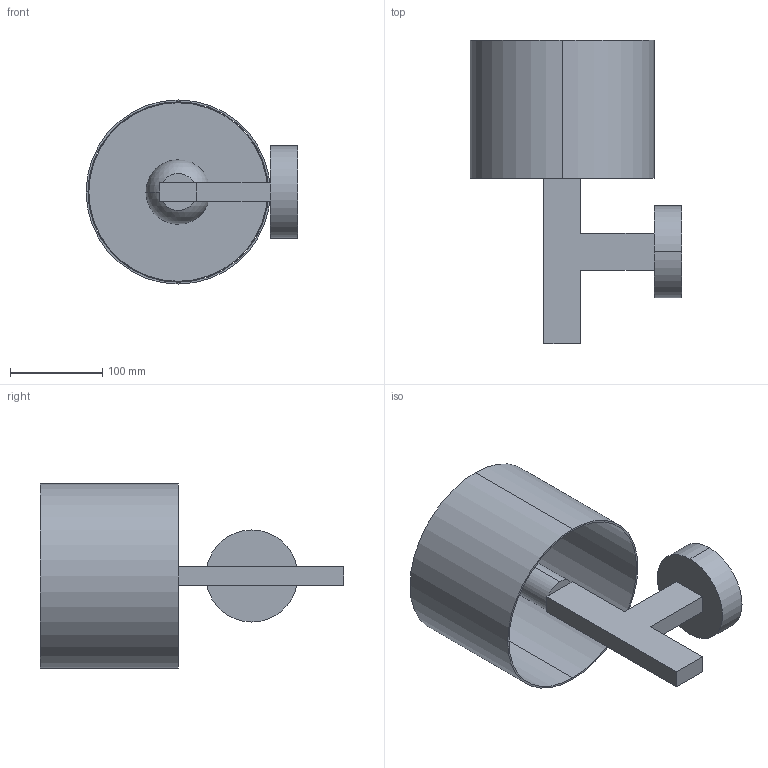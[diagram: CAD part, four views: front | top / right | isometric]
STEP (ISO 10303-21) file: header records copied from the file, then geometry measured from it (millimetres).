
FILE_DESCRIPTION (( 'STEP AP214' ), '1' );
FILE_NAME ('A1318.STEP', '2023-07-20T10:09:30', ( '' ), ( '' ), 'SwSTEP 2.0', 'SolidWorks 2018', '' );
FILE_SCHEMA (( 'AUTOMOTIVE_DESIGN' ));
Length unit declared in the file: millimetre
Products named in the file (1): A1318
Bounding box: 230 x 330 x 200 mm (x, y, z)
Volume: 971618.4 mm3; surface area: 335251.5 mm2
Topology: 4 solids, 4 shells, 458 faces, 1222 edges, 771 vertices
Faces by surface type: cylinder 286, plane 170, sphere 2
Entity records: 14541 total; most frequent: CARTESIAN_POINT 4712, ORIENTED_EDGE 2434, DIRECTION 1658, EDGE_CURVE 1217, VERTEX_POINT 768, LINE 594, VECTOR 594, AXIS2_PLACEMENT_3D 532
